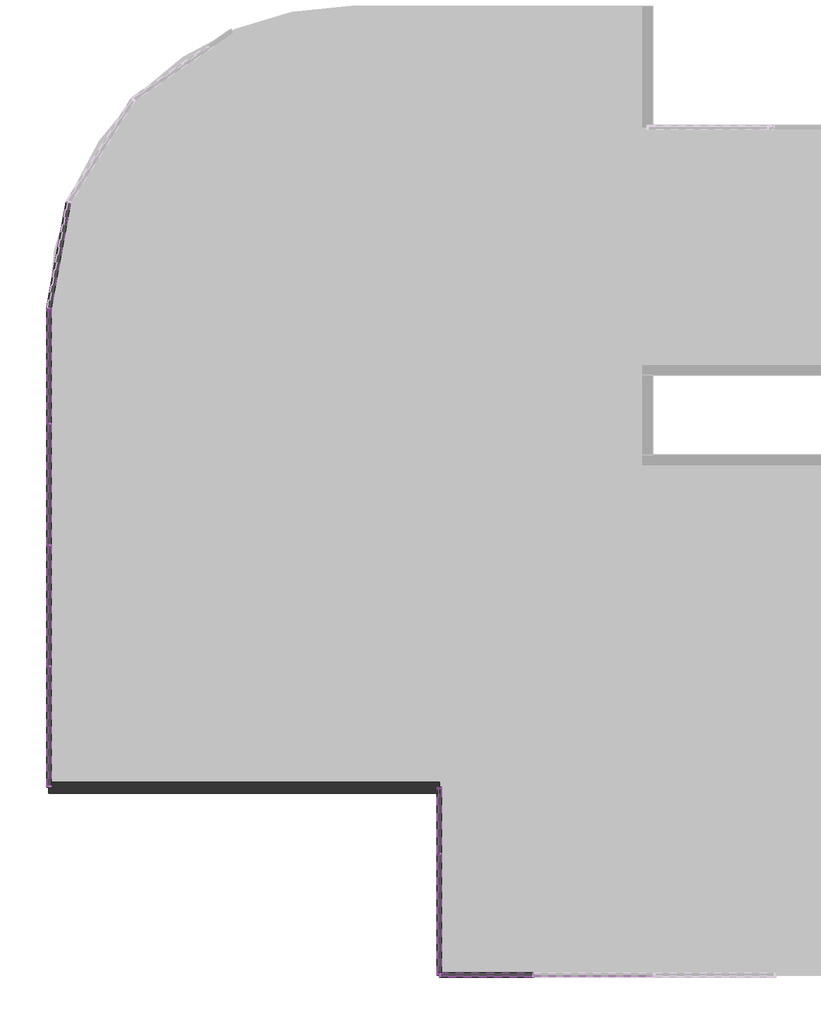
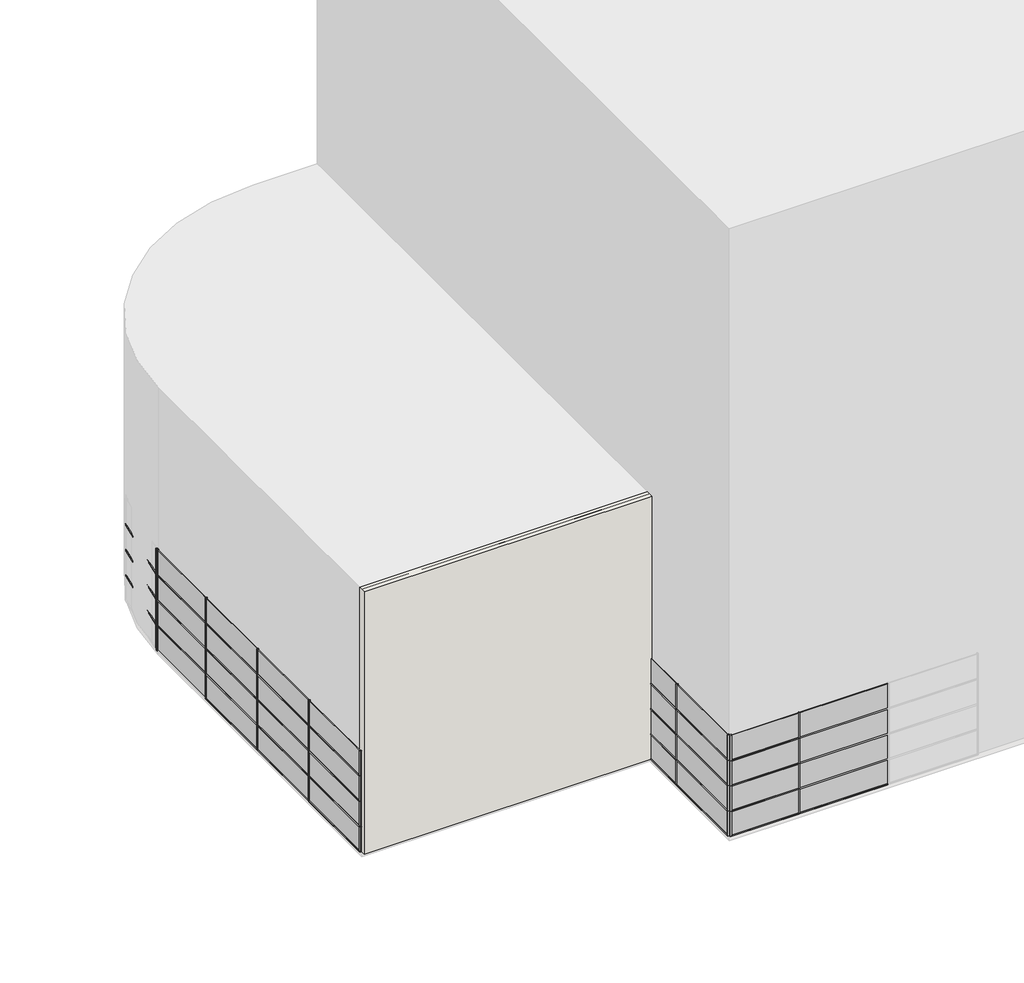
# One storey, part 1 of 4: 75 members, 32 plates, 1 wall.
"""IFC4 building model written with IfcOpenShell, lengths in millimetres."""

from ifc_helpers import new_model, si_unit, origin, origin_with_axes, place, context, project, spatial, polyline, outline, extrude, transform, mapped, element, save
from components import rectangular_mullion_50_x_150mm_d99dc9be, rectangular_mullion_50_x_150mm_182bfbd5, rectangular_mullion_50_x_150mm_402ab136, rectangular_mullion_50_x_150mm_6588f46c, rectangular_mullion_50_x_150mm_a037c29c, rectangular_mullion_50_x_150mm_c2546fd4, rectangular_mullion_50_x_150mm_cd873b1a, rectangular_mullion_50_x_150mm_60738c79, rectangular_mullion_50_x_150mm_bee9d6e8, rectangular_mullion_50_x_150mm_642c3999, rectangular_mullion_50_x_150mm_d9fe8572, rectangular_mullion_50_x_150mm_f56f8a9a, system_panel_glazed_ecbc047f, system_panel_glazed_0d1816dc, system_panel_glazed_8e9402eb, system_panel_glazed_89ac83a7, system_panel_glazed_34a378e1, system_panel_glazed_2dc425e2, system_panel_glazed_a7875b16, system_panel_glazed_da5fadb4, system_panel_glazed_e0ec5d24, system_panel_glazed_3a708ec0

model = new_model("IFC4")

# Units and contexts
model_context = context("Model", 3, world=origin())
ifc_project = project(units=[si_unit("LENGTHUNIT", "METRE", prefix="MILLI")], contexts=[model_context])

# Site, building, storey
site = spatial("IfcSite", under=ifc_project)
building = spatial("IfcBuilding", under=site)
storey = spatial("IfcBuildingStorey", under=building, Name="Suteren", Elevation=0.0)

# Members
placement = place(None, origin())
rectangular_mullion_50_x_150mm_shape = rectangular_mullion_50_x_150mm_d99dc9be(model_context)
element("IfcMember", 1, ObjectType="Rectangular Mullion : 50 x 150mm", at=placement, inside=storey, context=model_context, shape_type="MappedRepresentation", body=[
    mapped(rectangular_mullion_50_x_150mm_shape, transform((-2496.7339025, -23624.0160434, 2400.0), x_axis=(-1.0, 0.0, 0.0), y_axis=(0.0, -1.0, 0.0), z_axis=(0.0, 0.0, 1.0))),
])
element("IfcMember", 2, ObjectType="Rectangular Mullion : 50 x 150mm", at=placement, inside=storey, context=model_context, shape_type="MappedRepresentation", body=[
    mapped(rectangular_mullion_50_x_150mm_shape, transform((-2496.7339025, -23624.0160434, 3600.0), x_axis=(-1.0, 0.0, 0.0), y_axis=(0.0, -1.0, 0.0), z_axis=(0.0, 0.0, 1.0))),
])
element("IfcMember", 3, ObjectType="Rectangular Mullion : 50 x 150mm", at=placement, inside=storey, context=model_context, shape_type="MappedRepresentation", body=[
    mapped(rectangular_mullion_50_x_150mm_shape, transform((-2496.7339025, -23624.0160434, 4800.0), x_axis=(-1.0, 0.0, 0.0), y_axis=(0.0, -1.0, 0.0), z_axis=(0.0, 0.0, 1.0))),
])
element("IfcMember", 4, ObjectType="Rectangular Mullion : 50 x 150mm", at=placement, inside=storey, context=model_context, shape_type="MappedRepresentation", body=[
    mapped(rectangular_mullion_50_x_150mm_shape, transform((-5587.173406, -19624.0160434, 2400.0), x_axis=(0.0, 1.0, 0.0), y_axis=(-1.0, 0.0, 0.0), z_axis=(0.0, 0.0, 1.0))),
])
element("IfcMember", 5, ObjectType="Rectangular Mullion : 50 x 150mm", at=placement, inside=storey, context=model_context, shape_type="MappedRepresentation", body=[
    mapped(rectangular_mullion_50_x_150mm_shape, transform((-5587.173406, -19624.0160434, 3600.0), x_axis=(0.0, 1.0, 0.0), y_axis=(-1.0, 0.0, 0.0), z_axis=(0.0, 0.0, 1.0))),
])
element("IfcMember", 6, ObjectType="Rectangular Mullion : 50 x 150mm", at=placement, inside=storey, context=model_context, shape_type="MappedRepresentation", body=[
    mapped(rectangular_mullion_50_x_150mm_shape, transform((-5587.173406, -19624.0160434, 4800.0), x_axis=(0.0, 1.0, 0.0), y_axis=(-1.0, 0.0, 0.0), z_axis=(0.0, 0.0, 1.0))),
])
element("IfcMember", 7, ObjectType="Rectangular Mullion : 50 x 150mm", at=placement, inside=storey, context=model_context, shape_type="MappedRepresentation", body=[
    mapped(rectangular_mullion_50_x_150mm_shape, transform((-18496.7339025, -13423.5291324, 2400.0), x_axis=(0.0, 1.0, 0.0), y_axis=(-1.0, 0.0, 0.0), z_axis=(0.0, 0.0, 1.0))),
])
element("IfcMember", 8, ObjectType="Rectangular Mullion : 50 x 150mm", at=placement, inside=storey, context=model_context, shape_type="MappedRepresentation", body=[
    mapped(rectangular_mullion_50_x_150mm_shape, transform((-18496.7339025, -13423.5291324, 3600.0), x_axis=(0.0, 1.0, 0.0), y_axis=(-1.0, 0.0, 0.0), z_axis=(0.0, 0.0, 1.0))),
])
element("IfcMember", 9, ObjectType="Rectangular Mullion : 50 x 150mm", at=placement, inside=storey, context=model_context, shape_type="MappedRepresentation", body=[
    mapped(rectangular_mullion_50_x_150mm_shape, transform((-18496.7339025, -13423.5291324, 4800.0), x_axis=(0.0, 1.0, 0.0), y_axis=(-1.0, 0.0, 0.0), z_axis=(0.0, 0.0, 1.0))),
])
element("IfcMember", 10, ObjectType="Rectangular Mullion : 50 x 150mm", at=placement, inside=storey, context=model_context, shape_type="MappedRepresentation", body=[
    mapped(rectangular_mullion_50_x_150mm_shape, transform((-18496.7339025, -9423.5291324, 2400.0), x_axis=(0.0, 1.0, 0.0), y_axis=(-1.0, 0.0, 0.0), z_axis=(0.0, 0.0, 1.0))),
])
element("IfcMember", 11, ObjectType="Rectangular Mullion : 50 x 150mm", at=placement, inside=storey, context=model_context, shape_type="MappedRepresentation", body=[
    mapped(rectangular_mullion_50_x_150mm_shape, transform((-18496.7339025, -9423.5291324, 3600.0), x_axis=(0.0, 1.0, 0.0), y_axis=(-1.0, 0.0, 0.0), z_axis=(0.0, 0.0, 1.0))),
])
element("IfcMember", 12, ObjectType="Rectangular Mullion : 50 x 150mm", at=placement, inside=storey, context=model_context, shape_type="MappedRepresentation", body=[
    mapped(rectangular_mullion_50_x_150mm_shape, transform((-18496.7339025, -9423.5291324, 4800.0), x_axis=(0.0, 1.0, 0.0), y_axis=(-1.0, 0.0, 0.0), z_axis=(0.0, 0.0, 1.0))),
])
element("IfcMember", 13, ObjectType="Rectangular Mullion : 50 x 150mm", at=placement, inside=storey, context=model_context, shape_type="MappedRepresentation", body=[
    mapped(rectangular_mullion_50_x_150mm_shape, transform((-18496.7339025, -5423.5291324, 2400.0), x_axis=(0.0, 1.0, 0.0), y_axis=(-1.0, 0.0, 0.0), z_axis=(0.0, 0.0, 1.0))),
])
element("IfcMember", 14, ObjectType="Rectangular Mullion : 50 x 150mm", at=placement, inside=storey, context=model_context, shape_type="MappedRepresentation", body=[
    mapped(rectangular_mullion_50_x_150mm_shape, transform((-18496.7339025, -5423.5291324, 3600.0), x_axis=(0.0, 1.0, 0.0), y_axis=(-1.0, 0.0, 0.0), z_axis=(0.0, 0.0, 1.0))),
])
element("IfcMember", 15, ObjectType="Rectangular Mullion : 50 x 150mm", at=placement, inside=storey, context=model_context, shape_type="MappedRepresentation", body=[
    mapped(rectangular_mullion_50_x_150mm_shape, transform((-18496.7339025, -5423.5291324, 4800.0), x_axis=(0.0, 1.0, 0.0), y_axis=(-1.0, 0.0, 0.0), z_axis=(0.0, 0.0, 1.0))),
])
element("IfcMember", 16, ObjectType="Rectangular Mullion : 50 x 150mm", at=placement, inside=storey, context=model_context, shape_type="MappedRepresentation", body=[
    mapped(rectangular_mullion_50_x_150mm_shape, transform((-2496.7339025, -23624.0160434, 1200.0), x_axis=(-1.0, 0.0, 0.0), y_axis=(0.0, -1.0, 0.0), z_axis=(0.0, 0.0, 1.0))),
])
element("IfcMember", 17, ObjectType="Rectangular Mullion : 50 x 150mm", at=placement, inside=storey, context=model_context, shape_type="MappedRepresentation", body=[
    mapped(rectangular_mullion_50_x_150mm_shape, transform((-5587.173406, -19624.0160434, 1200.0), x_axis=(0.0, 1.0, 0.0), y_axis=(-1.0, 0.0, 0.0), z_axis=(0.0, 0.0, 1.0))),
])
element("IfcMember", 18, ObjectType="Rectangular Mullion : 50 x 150mm", at=placement, inside=storey, context=model_context, shape_type="MappedRepresentation", body=[
    mapped(rectangular_mullion_50_x_150mm_shape, transform((-18496.7339025, -13423.5291324, 1200.0), x_axis=(0.0, 1.0, 0.0), y_axis=(-1.0, 0.0, 0.0), z_axis=(0.0, 0.0, 1.0))),
])
element("IfcMember", 19, ObjectType="Rectangular Mullion : 50 x 150mm", at=placement, inside=storey, context=model_context, shape_type="MappedRepresentation", body=[
    mapped(rectangular_mullion_50_x_150mm_shape, transform((-18496.7339025, -9423.5291324, 1200.0), x_axis=(0.0, 1.0, 0.0), y_axis=(-1.0, 0.0, 0.0), z_axis=(0.0, 0.0, 1.0))),
])
element("IfcMember", 20, ObjectType="Rectangular Mullion : 50 x 150mm", at=placement, inside=storey, context=model_context, shape_type="MappedRepresentation", body=[
    mapped(rectangular_mullion_50_x_150mm_shape, transform((-18496.7339025, -5423.5291324, 1200.0), x_axis=(0.0, 1.0, 0.0), y_axis=(-1.0, 0.0, 0.0), z_axis=(0.0, 0.0, 1.0))),
])
rectangular_mullion_50_x_150mm_2_shape = rectangular_mullion_50_x_150mm_182bfbd5(model_context)
element("IfcMember", 21, ObjectType="Rectangular Mullion : 50 x 150mm", at=placement, inside=storey, context=model_context, shape_type="MappedRepresentation", body=[
    mapped(rectangular_mullion_50_x_150mm_2_shape, transform((-2471.7339025, -23624.0160434, 0.0), x_axis=(0.0, 0.0, -1.0), y_axis=(0.0, -1.0, 0.0), z_axis=(-1.0, 0.0, 0.0))),
])
element("IfcMember", 22, ObjectType="Rectangular Mullion : 50 x 150mm", at=placement, inside=storey, context=model_context, shape_type="MappedRepresentation", body=[
    mapped(rectangular_mullion_50_x_150mm_2_shape, transform((-18496.7339025, -9448.5291324, 0.0), x_axis=(0.0, 0.0, -1.0), y_axis=(-1.0, 0.0, 0.0), z_axis=(0.0, 1.0, 0.0))),
])
element("IfcMember", 23, ObjectType="Rectangular Mullion : 50 x 150mm", at=placement, inside=storey, context=model_context, shape_type="MappedRepresentation", body=[
    mapped(rectangular_mullion_50_x_150mm_2_shape, transform((-18496.7339025, -5448.5291324, 0.0), x_axis=(0.0, 0.0, -1.0), y_axis=(-1.0, 0.0, 0.0), z_axis=(0.0, 1.0, 0.0))),
])
rectangular_mullion_50_x_150mm_3_shape = rectangular_mullion_50_x_150mm_402ab136(model_context)
element("IfcMember", 24, ObjectType="Rectangular Mullion : 50 x 150mm", at=placement, inside=storey, context=model_context, shape_type="MappedRepresentation", body=[
    mapped(rectangular_mullion_50_x_150mm_3_shape, transform((-5587.173406, -19649.0160434, 0.0), x_axis=(0.0, 0.0, -1.0), y_axis=(-1.0, 0.0, 0.0), z_axis=(0.0, 1.0, 0.0))),
])
element("IfcMember", 25, ObjectType="Rectangular Mullion : 50 x 150mm", at=placement, inside=storey, context=model_context, shape_type="MappedRepresentation", body=[
    mapped(rectangular_mullion_50_x_150mm_3_shape, transform((-18496.7339025, -13448.5291324, 0.0), x_axis=(0.0, 0.0, -1.0), y_axis=(-1.0, 0.0, 0.0), z_axis=(0.0, 1.0, 0.0))),
])
rectangular_mullion_50_x_150mm_4_shape = rectangular_mullion_50_x_150mm_6588f46c(model_context)
element("IfcMember", 26, ObjectType="Rectangular Mullion : 50 x 150mm", at=placement, inside=storey, context=model_context, shape_type="MappedRepresentation", body=[
    mapped(rectangular_mullion_50_x_150mm_4_shape, transform((-5587.173406, -23624.0160434, 4800.0), x_axis=(-1.0, 0.0, 0.0), y_axis=(0.0, -1.0, 0.0), z_axis=(0.0, 0.0, 1.0))),
])
element("IfcMember", 27, ObjectType="Rectangular Mullion : 50 x 150mm", at=placement, inside=storey, context=model_context, shape_type="MappedRepresentation", body=[
    mapped(rectangular_mullion_50_x_150mm_4_shape, transform((-5587.173406, -23624.0160434, 2400.0), x_axis=(-1.0, 0.0, 0.0), y_axis=(0.0, -1.0, 0.0), z_axis=(0.0, 0.0, 1.0))),
])
element("IfcMember", 28, ObjectType="Rectangular Mullion : 50 x 150mm", at=placement, inside=storey, context=model_context, shape_type="MappedRepresentation", body=[
    mapped(rectangular_mullion_50_x_150mm_4_shape, transform((-5587.173406, -23624.0160434, 3600.0), x_axis=(-1.0, 0.0, 0.0), y_axis=(0.0, -1.0, 0.0), z_axis=(0.0, 0.0, 1.0))),
])
element("IfcMember", 29, ObjectType="Rectangular Mullion : 50 x 150mm", at=placement, inside=storey, context=model_context, shape_type="MappedRepresentation", body=[
    mapped(rectangular_mullion_50_x_150mm_4_shape, transform((-5587.173406, -17423.5291324, 2400.0), x_axis=(0.0, 1.0, 0.0), y_axis=(-1.0, 0.0, 0.0), z_axis=(0.0, 0.0, 1.0))),
])
element("IfcMember", 30, ObjectType="Rectangular Mullion : 50 x 150mm", at=placement, inside=storey, context=model_context, shape_type="MappedRepresentation", body=[
    mapped(rectangular_mullion_50_x_150mm_4_shape, transform((-5587.173406, -17423.5291324, 3600.0), x_axis=(0.0, 1.0, 0.0), y_axis=(-1.0, 0.0, 0.0), z_axis=(0.0, 0.0, 1.0))),
])
element("IfcMember", 31, ObjectType="Rectangular Mullion : 50 x 150mm", at=placement, inside=storey, context=model_context, shape_type="MappedRepresentation", body=[
    mapped(rectangular_mullion_50_x_150mm_4_shape, transform((-5587.173406, -17423.5291324, 4800.0), x_axis=(0.0, 1.0, 0.0), y_axis=(-1.0, 0.0, 0.0), z_axis=(0.0, 0.0, 1.0))),
])
element("IfcMember", 32, ObjectType="Rectangular Mullion : 50 x 150mm", at=placement, inside=storey, context=model_context, shape_type="MappedRepresentation", body=[
    mapped(rectangular_mullion_50_x_150mm_4_shape, transform((-18496.7339025, -1624.0160434, 2400.0), x_axis=(0.0, 1.0, 0.0), y_axis=(-1.0, 0.0, 0.0), z_axis=(0.0, 0.0, 1.0))),
])
element("IfcMember", 33, ObjectType="Rectangular Mullion : 50 x 150mm", at=placement, inside=storey, context=model_context, shape_type="MappedRepresentation", body=[
    mapped(rectangular_mullion_50_x_150mm_4_shape, transform((-18496.7339025, -1624.0160434, 3600.0), x_axis=(0.0, 1.0, 0.0), y_axis=(-1.0, 0.0, 0.0), z_axis=(0.0, 0.0, 1.0))),
])
element("IfcMember", 34, ObjectType="Rectangular Mullion : 50 x 150mm", at=placement, inside=storey, context=model_context, shape_type="MappedRepresentation", body=[
    mapped(rectangular_mullion_50_x_150mm_4_shape, transform((-18496.7339025, -1624.0160434, 4800.0), x_axis=(0.0, 1.0, 0.0), y_axis=(-1.0, 0.0, 0.0), z_axis=(0.0, 0.0, 1.0))),
])
element("IfcMember", 35, ObjectType="Rectangular Mullion : 50 x 150mm", at=placement, inside=storey, context=model_context, shape_type="MappedRepresentation", body=[
    mapped(rectangular_mullion_50_x_150mm_4_shape, transform((-5587.173406, -23624.0160434, 1200.0), x_axis=(-1.0, 0.0, 0.0), y_axis=(0.0, -1.0, 0.0), z_axis=(0.0, 0.0, 1.0))),
])
element("IfcMember", 36, ObjectType="Rectangular Mullion : 50 x 150mm", at=placement, inside=storey, context=model_context, shape_type="MappedRepresentation", body=[
    mapped(rectangular_mullion_50_x_150mm_4_shape, transform((-5587.173406, -17423.5291324, 1200.0), x_axis=(0.0, 1.0, 0.0), y_axis=(-1.0, 0.0, 0.0), z_axis=(0.0, 0.0, 1.0))),
])
element("IfcMember", 37, ObjectType="Rectangular Mullion : 50 x 150mm", at=placement, inside=storey, context=model_context, shape_type="MappedRepresentation", body=[
    mapped(rectangular_mullion_50_x_150mm_4_shape, transform((-18496.7339025, -1624.0160434, 1200.0), x_axis=(0.0, 1.0, 0.0), y_axis=(-1.0, 0.0, 0.0), z_axis=(0.0, 0.0, 1.0))),
])
rectangular_mullion_50_x_150mm_5_shape = rectangular_mullion_50_x_150mm_a037c29c(model_context)
element("IfcMember", 38, ObjectType="Rectangular Mullion : 50 x 150mm", at=placement, inside=storey, context=model_context, shape_type="MappedRepresentation", body=[
    mapped(rectangular_mullion_50_x_150mm_5_shape, transform((-18496.7339025, -13398.5291324, 2400.0), x_axis=(0.0, 0.0, 1.0), y_axis=(-1.0, 0.0, 0.0), z_axis=(0.0, -1.0, 0.0))),
])
element("IfcMember", 39, ObjectType="Rectangular Mullion : 50 x 150mm", at=placement, inside=storey, context=model_context, shape_type="MappedRepresentation", body=[
    mapped(rectangular_mullion_50_x_150mm_5_shape, transform((-18496.7339025, -9398.5291324, 2400.0), x_axis=(0.0, 0.0, 1.0), y_axis=(-1.0, 0.0, 0.0), z_axis=(0.0, -1.0, 0.0))),
])
element("IfcMember", 40, ObjectType="Rectangular Mullion : 50 x 150mm", at=placement, inside=storey, context=model_context, shape_type="MappedRepresentation", body=[
    mapped(rectangular_mullion_50_x_150mm_5_shape, transform((-18496.7339025, -13398.5291324, 3600.0), x_axis=(0.0, 0.0, 1.0), y_axis=(-1.0, 0.0, 0.0), z_axis=(0.0, -1.0, 0.0))),
])
element("IfcMember", 41, ObjectType="Rectangular Mullion : 50 x 150mm", at=placement, inside=storey, context=model_context, shape_type="MappedRepresentation", body=[
    mapped(rectangular_mullion_50_x_150mm_5_shape, transform((-18496.7339025, -9398.5291324, 3600.0), x_axis=(0.0, 0.0, 1.0), y_axis=(-1.0, 0.0, 0.0), z_axis=(0.0, -1.0, 0.0))),
])
element("IfcMember", 42, ObjectType="Rectangular Mullion : 50 x 150mm", at=placement, inside=storey, context=model_context, shape_type="MappedRepresentation", body=[
    mapped(rectangular_mullion_50_x_150mm_5_shape, transform((-18496.7339025, -13398.5291324, 1200.0), x_axis=(0.0, 0.0, 1.0), y_axis=(-1.0, 0.0, 0.0), z_axis=(0.0, -1.0, 0.0))),
])
element("IfcMember", 43, ObjectType="Rectangular Mullion : 50 x 150mm", at=placement, inside=storey, context=model_context, shape_type="MappedRepresentation", body=[
    mapped(rectangular_mullion_50_x_150mm_5_shape, transform((-18496.7339025, -9398.5291324, 1200.0), x_axis=(0.0, 0.0, 1.0), y_axis=(-1.0, 0.0, 0.0), z_axis=(0.0, -1.0, 0.0))),
])
rectangular_mullion_50_x_150mm_6_shape = rectangular_mullion_50_x_150mm_c2546fd4(model_context)
element("IfcMember", 44, ObjectType="Rectangular Mullion : 50 x 150mm", at=placement, inside=storey, context=model_context, shape_type="MappedRepresentation", body=[
    mapped(rectangular_mullion_50_x_150mm_6_shape, transform((-5587.173406, -23574.0160434, 1200.0), x_axis=(0.0, 0.0, 1.0), y_axis=(-1.0, 0.0, 0.0), z_axis=(0.0, -1.0, 0.0))),
])
element("IfcMember", 45, ObjectType="Rectangular Mullion : 50 x 150mm", at=placement, inside=storey, context=model_context, shape_type="MappedRepresentation", body=[
    mapped(rectangular_mullion_50_x_150mm_6_shape, transform((-5587.173406, -23574.0160434, 2400.0), x_axis=(0.0, 0.0, 1.0), y_axis=(-1.0, 0.0, 0.0), z_axis=(0.0, -1.0, 0.0))),
])
element("IfcMember", 46, ObjectType="Rectangular Mullion : 50 x 150mm", at=placement, inside=storey, context=model_context, shape_type="MappedRepresentation", body=[
    mapped(rectangular_mullion_50_x_150mm_6_shape, transform((-5587.173406, -23574.0160434, 3600.0), x_axis=(0.0, 0.0, 1.0), y_axis=(-1.0, 0.0, 0.0), z_axis=(0.0, -1.0, 0.0))),
])
element("IfcMember", 47, ObjectType="Rectangular Mullion : 50 x 150mm", at=placement, inside=storey, context=model_context, shape_type="MappedRepresentation", body=[
    mapped(rectangular_mullion_50_x_150mm_6_shape, transform((-18496.7339025, -17373.5291324, 2400.0), x_axis=(0.0, 0.0, 1.0), y_axis=(-1.0, 0.0, 0.0), z_axis=(0.0, -1.0, 0.0))),
])
element("IfcMember", 48, ObjectType="Rectangular Mullion : 50 x 150mm", at=placement, inside=storey, context=model_context, shape_type="MappedRepresentation", body=[
    mapped(rectangular_mullion_50_x_150mm_6_shape, transform((-18496.7339025, -17373.5291324, 3600.0), x_axis=(0.0, 0.0, 1.0), y_axis=(-1.0, 0.0, 0.0), z_axis=(0.0, -1.0, 0.0))),
])
element("IfcMember", 49, ObjectType="Rectangular Mullion : 50 x 150mm", at=placement, inside=storey, context=model_context, shape_type="MappedRepresentation", body=[
    mapped(rectangular_mullion_50_x_150mm_6_shape, transform((-18496.7339025, -17373.5291324, 1200.0), x_axis=(0.0, 0.0, 1.0), y_axis=(-1.0, 0.0, 0.0), z_axis=(0.0, -1.0, 0.0))),
])
element("IfcMember", 50, ObjectType="Rectangular Mullion : 50 x 150mm", at=placement, inside=storey, context=model_context, shape_type="MappedRepresentation", body=[
    mapped(rectangular_mullion_50_x_150mm_4_shape, transform((-5587.173406, -23624.0160434, 1200.0), x_axis=(0.0, -1.0, 0.0), y_axis=(-1.0, 0.0, 0.0), z_axis=(0.0, 0.0, -1.0))),
])
element("IfcMember", 51, ObjectType="Rectangular Mullion : 50 x 150mm", at=placement, inside=storey, context=model_context, shape_type="MappedRepresentation", body=[
    mapped(rectangular_mullion_50_x_150mm_4_shape, transform((-5587.173406, -23624.0160434, 2400.0), x_axis=(0.0, -1.0, 0.0), y_axis=(-1.0, 0.0, 0.0), z_axis=(0.0, 0.0, -1.0))),
])
element("IfcMember", 52, ObjectType="Rectangular Mullion : 50 x 150mm", at=placement, inside=storey, context=model_context, shape_type="MappedRepresentation", body=[
    mapped(rectangular_mullion_50_x_150mm_4_shape, transform((-5587.173406, -23624.0160434, 3600.0), x_axis=(0.0, -1.0, 0.0), y_axis=(-1.0, 0.0, 0.0), z_axis=(0.0, 0.0, -1.0))),
])
element("IfcMember", 53, ObjectType="Rectangular Mullion : 50 x 150mm", at=placement, inside=storey, context=model_context, shape_type="MappedRepresentation", body=[
    mapped(rectangular_mullion_50_x_150mm_4_shape, transform((-18496.7339025, -1624.0160434, 1200.0), x_axis=(-0.18033241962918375, -0.9836057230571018, 0.0), y_axis=(-0.9836057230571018, 0.18033241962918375, 0.0), z_axis=(0.0, 0.0, -1.0))),
])
element("IfcMember", 54, ObjectType="Rectangular Mullion : 50 x 150mm", at=placement, inside=storey, context=model_context, shape_type="MappedRepresentation", body=[
    mapped(rectangular_mullion_50_x_150mm_4_shape, transform((-18496.7339025, -1624.0160434, 2400.0), x_axis=(-0.18033241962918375, -0.9836057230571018, 0.0), y_axis=(-0.9836057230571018, 0.18033241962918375, 0.0), z_axis=(0.0, 0.0, -1.0))),
])
element("IfcMember", 55, ObjectType="Rectangular Mullion : 50 x 150mm", at=placement, inside=storey, context=model_context, shape_type="MappedRepresentation", body=[
    mapped(rectangular_mullion_50_x_150mm_4_shape, transform((-18496.7339025, -1624.0160434, 3600.0), x_axis=(-0.18033241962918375, -0.9836057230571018, 0.0), y_axis=(-0.9836057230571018, 0.18033241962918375, 0.0), z_axis=(0.0, 0.0, -1.0))),
])
element("IfcMember", 56, ObjectType="Rectangular Mullion : 50 x 150mm", at=placement, inside=storey, context=model_context, shape_type="MappedRepresentation", body=[
    mapped(rectangular_mullion_50_x_150mm_4_shape, transform((-18496.7339025, -17423.5291324, 2400.0), x_axis=(0.0, -1.0, 0.0), y_axis=(-1.0, 0.0, 0.0), z_axis=(0.0, 0.0, -1.0))),
])
element("IfcMember", 57, ObjectType="Rectangular Mullion : 50 x 150mm", at=placement, inside=storey, context=model_context, shape_type="MappedRepresentation", body=[
    mapped(rectangular_mullion_50_x_150mm_4_shape, transform((-18496.7339025, -17423.5291324, 3600.0), x_axis=(0.0, -1.0, 0.0), y_axis=(-1.0, 0.0, 0.0), z_axis=(0.0, 0.0, -1.0))),
])
element("IfcMember", 58, ObjectType="Rectangular Mullion : 50 x 150mm", at=placement, inside=storey, context=model_context, shape_type="MappedRepresentation", body=[
    mapped(rectangular_mullion_50_x_150mm_4_shape, transform((-18496.7339025, -17423.5291324, 1200.0), x_axis=(0.0, -1.0, 0.0), y_axis=(-1.0, 0.0, 0.0), z_axis=(0.0, 0.0, -1.0))),
])
element("IfcMember", 59, ObjectType="Rectangular Mullion : 50 x 150mm", at=placement, inside=storey, context=model_context, shape_type="MappedRepresentation", body=[
    mapped(rectangular_mullion_50_x_150mm_4_shape, transform((-5587.173406, -23624.0160434, 0.0), x_axis=(0.0, -1.0, 0.0), y_axis=(-1.0, 0.0, 0.0), z_axis=(0.0, 0.0, -1.0))),
])
element("IfcMember", 60, ObjectType="Rectangular Mullion : 50 x 150mm", at=placement, inside=storey, context=model_context, shape_type="MappedRepresentation", body=[
    mapped(rectangular_mullion_50_x_150mm_4_shape, transform((-18496.7339025, -1624.0160434, 0.0), x_axis=(-0.18033241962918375, -0.9836057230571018, 0.0), y_axis=(-0.9836057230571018, 0.18033241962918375, 0.0), z_axis=(0.0, 0.0, -1.0))),
])
element("IfcMember", 61, ObjectType="Rectangular Mullion : 50 x 150mm", at=placement, inside=storey, context=model_context, shape_type="MappedRepresentation", body=[
    mapped(rectangular_mullion_50_x_150mm_4_shape, transform((-18496.7339025, -17423.5291324, 0.0), x_axis=(0.0, -1.0, 0.0), y_axis=(-1.0, 0.0, 0.0), z_axis=(0.0, 0.0, -1.0))),
])
rectangular_mullion_50_x_150mm_7_shape = rectangular_mullion_50_x_150mm_cd873b1a(model_context)
element("IfcMember", 62, ObjectType="Rectangular Mullion : 50 x 150mm", at=placement, inside=storey, context=model_context, shape_type="MappedRepresentation", body=[
    mapped(rectangular_mullion_50_x_150mm_7_shape, transform((-2521.7339025, -23624.0160434, 3600.0), x_axis=(0.0, 0.0, 1.0), y_axis=(0.0, -1.0, 0.0), z_axis=(1.0, 0.0, 0.0))),
])
element("IfcMember", 63, ObjectType="Rectangular Mullion : 50 x 150mm", at=placement, inside=storey, context=model_context, shape_type="MappedRepresentation", body=[
    mapped(rectangular_mullion_50_x_150mm_7_shape, transform((-2521.7339025, -23624.0160434, 1200.0), x_axis=(0.0, 0.0, 1.0), y_axis=(0.0, -1.0, 0.0), z_axis=(1.0, 0.0, 0.0))),
])
element("IfcMember", 64, ObjectType="Rectangular Mullion : 50 x 150mm", at=placement, inside=storey, context=model_context, shape_type="MappedRepresentation", body=[
    mapped(rectangular_mullion_50_x_150mm_7_shape, transform((-2521.7339025, -23624.0160434, 2400.0), x_axis=(0.0, 0.0, 1.0), y_axis=(0.0, -1.0, 0.0), z_axis=(1.0, 0.0, 0.0))),
])
rectangular_mullion_50_x_150mm_8_shape = rectangular_mullion_50_x_150mm_60738c79(model_context)
element("IfcMember", 65, ObjectType="Rectangular Mullion : 50 x 150mm", at=placement, inside=storey, context=model_context, shape_type="MappedRepresentation", body=[
    mapped(rectangular_mullion_50_x_150mm_8_shape, transform((-5537.173406, -23624.0160434, 0.0), x_axis=(0.0, 0.0, -1.0), y_axis=(0.0, -1.0, 0.0), z_axis=(-1.0, 0.0, 0.0))),
])
rectangular_mullion_50_x_150mm_9_shape = rectangular_mullion_50_x_150mm_bee9d6e8(model_context)
element("IfcMember", 66, ObjectType="Rectangular Mullion : 50 x 150mm", at=placement, inside=storey, context=model_context, shape_type="MappedRepresentation", body=[
    mapped(rectangular_mullion_50_x_150mm_9_shape, transform((-5587.173406, -17473.5291324, 0.0), x_axis=(0.0, 0.0, -1.0), y_axis=(-1.0, 0.0, 0.0), z_axis=(0.0, 1.0, 0.0))),
])
rectangular_mullion_50_x_150mm_10_shape = rectangular_mullion_50_x_150mm_642c3999(model_context)
element("IfcMember", 67, ObjectType="Rectangular Mullion : 50 x 150mm", at=placement, inside=storey, context=model_context, shape_type="MappedRepresentation", body=[
    mapped(rectangular_mullion_50_x_150mm_10_shape, transform((-5587.173406, -19599.0160434, 1200.0), x_axis=(0.0, 0.0, 1.0), y_axis=(-1.0, 0.0, 0.0), z_axis=(0.0, -1.0, 0.0))),
])
element("IfcMember", 68, ObjectType="Rectangular Mullion : 50 x 150mm", at=placement, inside=storey, context=model_context, shape_type="MappedRepresentation", body=[
    mapped(rectangular_mullion_50_x_150mm_10_shape, transform((-5587.173406, -19599.0160434, 2400.0), x_axis=(0.0, 0.0, 1.0), y_axis=(-1.0, 0.0, 0.0), z_axis=(0.0, -1.0, 0.0))),
])
element("IfcMember", 69, ObjectType="Rectangular Mullion : 50 x 150mm", at=placement, inside=storey, context=model_context, shape_type="MappedRepresentation", body=[
    mapped(rectangular_mullion_50_x_150mm_10_shape, transform((-5587.173406, -19599.0160434, 3600.0), x_axis=(0.0, 0.0, 1.0), y_axis=(-1.0, 0.0, 0.0), z_axis=(0.0, -1.0, 0.0))),
])
rectangular_mullion_50_x_150mm_11_shape = rectangular_mullion_50_x_150mm_d9fe8572(model_context)
element("IfcMember", 70, ObjectType="Rectangular Mullion : 50 x 150mm", at=placement, inside=storey, context=model_context, shape_type="MappedRepresentation", body=[
    mapped(rectangular_mullion_50_x_150mm_11_shape, transform((-18487.7172815, -1574.8357573, 1200.0), x_axis=(0.0, 0.0, 1.0), y_axis=(-0.9836057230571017, 0.1803324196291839, 0.0), z_axis=(-0.1803324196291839, -0.9836057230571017, 0.0))),
])
element("IfcMember", 71, ObjectType="Rectangular Mullion : 50 x 150mm", at=placement, inside=storey, context=model_context, shape_type="MappedRepresentation", body=[
    mapped(rectangular_mullion_50_x_150mm_11_shape, transform((-18487.7172815, -1574.8357573, 2400.0), x_axis=(0.0, 0.0, 1.0), y_axis=(-0.9836057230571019, 0.18033241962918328, 0.0), z_axis=(-0.18033241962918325, -0.9836057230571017, 0.0))),
])
element("IfcMember", 72, ObjectType="Rectangular Mullion : 50 x 150mm", at=placement, inside=storey, context=model_context, shape_type="MappedRepresentation", body=[
    mapped(rectangular_mullion_50_x_150mm_11_shape, transform((-18487.7172815, -1574.8357573, 3600.0), x_axis=(0.0, 0.0, 1.0), y_axis=(-0.9836057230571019, 0.18033241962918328, 0.0), z_axis=(-0.18033241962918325, -0.9836057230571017, 0.0))),
])
rectangular_mullion_50_x_150mm_12_shape = rectangular_mullion_50_x_150mm_f56f8a9a(model_context)
element("IfcMember", 73, ObjectType="Rectangular Mullion : 50 x 150mm", at=placement, inside=storey, context=model_context, shape_type="MappedRepresentation", body=[
    mapped(rectangular_mullion_50_x_150mm_12_shape, transform((-18496.7339025, -5398.5291324, 2400.0), x_axis=(0.0, 0.0, 1.0), y_axis=(-1.0, 0.0, 0.0), z_axis=(0.0, -1.0, 0.0))),
])
element("IfcMember", 74, ObjectType="Rectangular Mullion : 50 x 150mm", at=placement, inside=storey, context=model_context, shape_type="MappedRepresentation", body=[
    mapped(rectangular_mullion_50_x_150mm_12_shape, transform((-18496.7339025, -5398.5291324, 3600.0), x_axis=(0.0, 0.0, 1.0), y_axis=(-1.0, 0.0, 0.0), z_axis=(0.0, -1.0, 0.0))),
])
element("IfcMember", 75, ObjectType="Rectangular Mullion : 50 x 150mm", at=placement, inside=storey, context=model_context, shape_type="MappedRepresentation", body=[
    mapped(rectangular_mullion_50_x_150mm_12_shape, transform((-18496.7339025, -5398.5291324, 1200.0), x_axis=(0.0, 0.0, 1.0), y_axis=(-1.0, 0.0, 0.0), z_axis=(0.0, -1.0, 0.0))),
])

# Plates
system_panel_glazed_shape = system_panel_glazed_ecbc047f(model_context)
element("IfcPlate", 76, ObjectType="System Panel : Glazed", at=placement, inside=storey, context=model_context, shape_type="MappedRepresentation", body=[
    mapped(system_panel_glazed_shape, transform((-5587.173406, -21611.5160434, 50.0), x_axis=(0.0, 1.0, 0.0), y_axis=(-1.0, 0.0, 0.0), z_axis=(0.0, 0.0, 1.0))),
])
element("IfcPlate", 77, ObjectType="System Panel : Glazed", at=placement, inside=storey, context=model_context, shape_type="MappedRepresentation", body=[
    mapped(system_panel_glazed_shape, transform((-18496.7339025, -15411.0291324, 50.0), x_axis=(0.0, 1.0, 0.0), y_axis=(-1.0, 0.0, 0.0), z_axis=(0.0, 0.0, 1.0))),
])
system_panel_glazed_2_shape = system_panel_glazed_0d1816dc(model_context)
element("IfcPlate", 78, ObjectType="System Panel : Glazed", at=placement, inside=storey, context=model_context, shape_type="MappedRepresentation", body=[
    mapped(system_panel_glazed_2_shape, transform((-496.7339025, -23624.0160434, 50.0), x_axis=(-1.0, 0.0, 0.0), y_axis=(0.0, -1.0, 0.0), z_axis=(0.0, 0.0, 1.0))),
])
element("IfcPlate", 79, ObjectType="System Panel : Glazed", at=placement, inside=storey, context=model_context, shape_type="MappedRepresentation", body=[
    mapped(system_panel_glazed_2_shape, transform((-18496.7339025, -11423.5291324, 50.0), x_axis=(0.0, 1.0, 0.0), y_axis=(-1.0, 0.0, 0.0), z_axis=(0.0, 0.0, 1.0))),
])
element("IfcPlate", 80, ObjectType="System Panel : Glazed", at=placement, inside=storey, context=model_context, shape_type="MappedRepresentation", body=[
    mapped(system_panel_glazed_2_shape, transform((-18496.7339025, -7423.5291324, 50.0), x_axis=(0.0, 1.0, 0.0), y_axis=(-1.0, 0.0, 0.0), z_axis=(0.0, 0.0, 1.0))),
])
system_panel_glazed_3_shape = system_panel_glazed_8e9402eb(model_context)
element("IfcPlate", 81, ObjectType="System Panel : Glazed", at=placement, inside=storey, context=model_context, shape_type="MappedRepresentation", body=[
    mapped(system_panel_glazed_3_shape, transform((-5587.173406, -21611.5160434, 1225.0), x_axis=(0.0, 1.0, 0.0), y_axis=(-1.0, 0.0, 0.0), z_axis=(0.0, 0.0, 1.0))),
])
element("IfcPlate", 82, ObjectType="System Panel : Glazed", at=placement, inside=storey, context=model_context, shape_type="MappedRepresentation", body=[
    mapped(system_panel_glazed_3_shape, transform((-5587.173406, -21611.5160434, 2425.0), x_axis=(0.0, 1.0, 0.0), y_axis=(-1.0, 0.0, 0.0), z_axis=(0.0, 0.0, 1.0))),
])
element("IfcPlate", 83, ObjectType="System Panel : Glazed", at=placement, inside=storey, context=model_context, shape_type="MappedRepresentation", body=[
    mapped(system_panel_glazed_3_shape, transform((-5587.173406, -21611.5160434, 3625.0), x_axis=(0.0, 1.0, 0.0), y_axis=(-1.0, 0.0, 0.0), z_axis=(0.0, 0.0, 1.0))),
])
element("IfcPlate", 84, ObjectType="System Panel : Glazed", at=placement, inside=storey, context=model_context, shape_type="MappedRepresentation", body=[
    mapped(system_panel_glazed_3_shape, transform((-18496.7339025, -15411.0291324, 1225.0), x_axis=(0.0, 1.0, 0.0), y_axis=(-1.0, 0.0, 0.0), z_axis=(0.0, 0.0, 1.0))),
])
element("IfcPlate", 85, ObjectType="System Panel : Glazed", at=placement, inside=storey, context=model_context, shape_type="MappedRepresentation", body=[
    mapped(system_panel_glazed_3_shape, transform((-18496.7339025, -15411.0291324, 2425.0), x_axis=(0.0, 1.0, 0.0), y_axis=(-1.0, 0.0, 0.0), z_axis=(0.0, 0.0, 1.0))),
])
element("IfcPlate", 86, ObjectType="System Panel : Glazed", at=placement, inside=storey, context=model_context, shape_type="MappedRepresentation", body=[
    mapped(system_panel_glazed_3_shape, transform((-18496.7339025, -15411.0291324, 3625.0), x_axis=(0.0, 1.0, 0.0), y_axis=(-1.0, 0.0, 0.0), z_axis=(0.0, 0.0, 1.0))),
])
system_panel_glazed_4_shape = system_panel_glazed_89ac83a7(model_context)
element("IfcPlate", 87, ObjectType="System Panel : Glazed", at=placement, inside=storey, context=model_context, shape_type="MappedRepresentation", body=[
    mapped(system_panel_glazed_4_shape, transform((-496.7339025, -23624.0160434, 1225.0), x_axis=(-1.0, 0.0, 0.0), y_axis=(0.0, -1.0, 0.0), z_axis=(0.0, 0.0, 1.0))),
])
element("IfcPlate", 88, ObjectType="System Panel : Glazed", at=placement, inside=storey, context=model_context, shape_type="MappedRepresentation", body=[
    mapped(system_panel_glazed_4_shape, transform((-496.7339025, -23624.0160434, 2425.0), x_axis=(-1.0, 0.0, 0.0), y_axis=(0.0, -1.0, 0.0), z_axis=(0.0, 0.0, 1.0))),
])
element("IfcPlate", 89, ObjectType="System Panel : Glazed", at=placement, inside=storey, context=model_context, shape_type="MappedRepresentation", body=[
    mapped(system_panel_glazed_4_shape, transform((-496.7339025, -23624.0160434, 3625.0), x_axis=(-1.0, 0.0, 0.0), y_axis=(0.0, -1.0, 0.0), z_axis=(0.0, 0.0, 1.0))),
])
element("IfcPlate", 90, ObjectType="System Panel : Glazed", at=placement, inside=storey, context=model_context, shape_type="MappedRepresentation", body=[
    mapped(system_panel_glazed_4_shape, transform((-18496.7339025, -11423.5291324, 1225.0), x_axis=(0.0, 1.0, 0.0), y_axis=(-1.0, 0.0, 0.0), z_axis=(0.0, 0.0, 1.0))),
])
element("IfcPlate", 91, ObjectType="System Panel : Glazed", at=placement, inside=storey, context=model_context, shape_type="MappedRepresentation", body=[
    mapped(system_panel_glazed_4_shape, transform((-18496.7339025, -7423.5291324, 1225.0), x_axis=(0.0, 1.0, 0.0), y_axis=(-1.0, 0.0, 0.0), z_axis=(0.0, 0.0, 1.0))),
])
element("IfcPlate", 92, ObjectType="System Panel : Glazed", at=placement, inside=storey, context=model_context, shape_type="MappedRepresentation", body=[
    mapped(system_panel_glazed_4_shape, transform((-18496.7339025, -11423.5291324, 2425.0), x_axis=(0.0, 1.0, 0.0), y_axis=(-1.0, 0.0, 0.0), z_axis=(0.0, 0.0, 1.0))),
])
element("IfcPlate", 93, ObjectType="System Panel : Glazed", at=placement, inside=storey, context=model_context, shape_type="MappedRepresentation", body=[
    mapped(system_panel_glazed_4_shape, transform((-18496.7339025, -7423.5291324, 2425.0), x_axis=(0.0, 1.0, 0.0), y_axis=(-1.0, 0.0, 0.0), z_axis=(0.0, 0.0, 1.0))),
])
element("IfcPlate", 94, ObjectType="System Panel : Glazed", at=placement, inside=storey, context=model_context, shape_type="MappedRepresentation", body=[
    mapped(system_panel_glazed_4_shape, transform((-18496.7339025, -11423.5291324, 3625.0), x_axis=(0.0, 1.0, 0.0), y_axis=(-1.0, 0.0, 0.0), z_axis=(0.0, 0.0, 1.0))),
])
element("IfcPlate", 95, ObjectType="System Panel : Glazed", at=placement, inside=storey, context=model_context, shape_type="MappedRepresentation", body=[
    mapped(system_panel_glazed_4_shape, transform((-18496.7339025, -7423.5291324, 3625.0), x_axis=(0.0, 1.0, 0.0), y_axis=(-1.0, 0.0, 0.0), z_axis=(0.0, 0.0, 1.0))),
])
system_panel_glazed_5_shape = system_panel_glazed_34a378e1(model_context)
element("IfcPlate", 96, ObjectType="System Panel : Glazed", at=placement, inside=storey, context=model_context, shape_type="MappedRepresentation", body=[
    mapped(system_panel_glazed_5_shape, transform((-4029.4536543, -23624.0160434, 50.0), x_axis=(-1.0, 0.0, 0.0), y_axis=(0.0, -1.0, 0.0), z_axis=(0.0, 0.0, 1.0))),
])
system_panel_glazed_6_shape = system_panel_glazed_2dc425e2(model_context)
element("IfcPlate", 97, ObjectType="System Panel : Glazed", at=placement, inside=storey, context=model_context, shape_type="MappedRepresentation", body=[
    mapped(system_panel_glazed_6_shape, transform((-4029.4536543, -23624.0160434, 1225.0), x_axis=(-1.0, 0.0, 0.0), y_axis=(0.0, -1.0, 0.0), z_axis=(0.0, 0.0, 1.0))),
])
element("IfcPlate", 98, ObjectType="System Panel : Glazed", at=placement, inside=storey, context=model_context, shape_type="MappedRepresentation", body=[
    mapped(system_panel_glazed_6_shape, transform((-4029.4536543, -23624.0160434, 2425.0), x_axis=(-1.0, 0.0, 0.0), y_axis=(0.0, -1.0, 0.0), z_axis=(0.0, 0.0, 1.0))),
])
element("IfcPlate", 99, ObjectType="System Panel : Glazed", at=placement, inside=storey, context=model_context, shape_type="MappedRepresentation", body=[
    mapped(system_panel_glazed_6_shape, transform((-4029.4536543, -23624.0160434, 3625.0), x_axis=(-1.0, 0.0, 0.0), y_axis=(0.0, -1.0, 0.0), z_axis=(0.0, 0.0, 1.0))),
])
system_panel_glazed_7_shape = system_panel_glazed_a7875b16(model_context)
element("IfcPlate", 100, ObjectType="System Panel : Glazed", at=placement, inside=storey, context=model_context, shape_type="MappedRepresentation", body=[
    mapped(system_panel_glazed_7_shape, transform((-5587.173406, -18536.2725879, 50.0), x_axis=(0.0, 1.0, 0.0), y_axis=(-1.0, 0.0, 0.0), z_axis=(0.0, 0.0, 1.0))),
])
system_panel_glazed_8_shape = system_panel_glazed_da5fadb4(model_context)
element("IfcPlate", 101, ObjectType="System Panel : Glazed", at=placement, inside=storey, context=model_context, shape_type="MappedRepresentation", body=[
    mapped(system_panel_glazed_8_shape, transform((-5587.173406, -18536.2725879, 1225.0), x_axis=(0.0, 1.0, 0.0), y_axis=(-1.0, 0.0, 0.0), z_axis=(0.0, 0.0, 1.0))),
])
element("IfcPlate", 102, ObjectType="System Panel : Glazed", at=placement, inside=storey, context=model_context, shape_type="MappedRepresentation", body=[
    mapped(system_panel_glazed_8_shape, transform((-5587.173406, -18536.2725879, 2425.0), x_axis=(0.0, 1.0, 0.0), y_axis=(-1.0, 0.0, 0.0), z_axis=(0.0, 0.0, 1.0))),
])
element("IfcPlate", 103, ObjectType="System Panel : Glazed", at=placement, inside=storey, context=model_context, shape_type="MappedRepresentation", body=[
    mapped(system_panel_glazed_8_shape, transform((-5587.173406, -18536.2725879, 3625.0), x_axis=(0.0, 1.0, 0.0), y_axis=(-1.0, 0.0, 0.0), z_axis=(0.0, 0.0, 1.0))),
])
system_panel_glazed_9_shape = system_panel_glazed_e0ec5d24(model_context)
element("IfcPlate", 104, ObjectType="System Panel : Glazed", at=placement, inside=storey, context=model_context, shape_type="MappedRepresentation", body=[
    mapped(system_panel_glazed_9_shape, transform((-18496.7339025, -3536.2725879, 50.0), x_axis=(0.0, 1.0, 0.0), y_axis=(-1.0, 0.0, 0.0), z_axis=(0.0, 0.0, 1.0))),
])
system_panel_glazed_10_shape = system_panel_glazed_3a708ec0(model_context)
element("IfcPlate", 105, ObjectType="System Panel : Glazed", at=placement, inside=storey, context=model_context, shape_type="MappedRepresentation", body=[
    mapped(system_panel_glazed_10_shape, transform((-18496.7339025, -3536.2725879, 1225.0), x_axis=(0.0, 1.0, 0.0), y_axis=(-1.0, 0.0, 0.0), z_axis=(0.0, 0.0, 1.0))),
])
element("IfcPlate", 106, ObjectType="System Panel : Glazed", at=placement, inside=storey, context=model_context, shape_type="MappedRepresentation", body=[
    mapped(system_panel_glazed_10_shape, transform((-18496.7339025, -3536.2725879, 2425.0), x_axis=(0.0, 1.0, 0.0), y_axis=(-1.0, 0.0, 0.0), z_axis=(0.0, 0.0, 1.0))),
])
element("IfcPlate", 107, ObjectType="System Panel : Glazed", at=placement, inside=storey, context=model_context, shape_type="MappedRepresentation", body=[
    mapped(system_panel_glazed_10_shape, transform((-18496.7339025, -3536.2725879, 3625.0), x_axis=(0.0, 1.0, 0.0), y_axis=(-1.0, 0.0, 0.0), z_axis=(0.0, 0.0, 1.0))),
])

# Wall
element("IfcWall", 108, ObjectType="Exterior - Brick on Mtl. Stud", at=placement, inside=storey, context=model_context, shape_type="SweptSolid", body=[
    extrude(outline(polyline([(-5587.173406, -17608.5291324), (-18496.7339025, -17608.5291324), (-18496.7339025, -17258.5291324), (-5587.173406, -17258.5291324), (-5587.173406, -17608.5291324)])), origin_with_axes(), (0.0, 0.0, 1.0), 12448.4924443),
])

save(model, "model.ifc")
